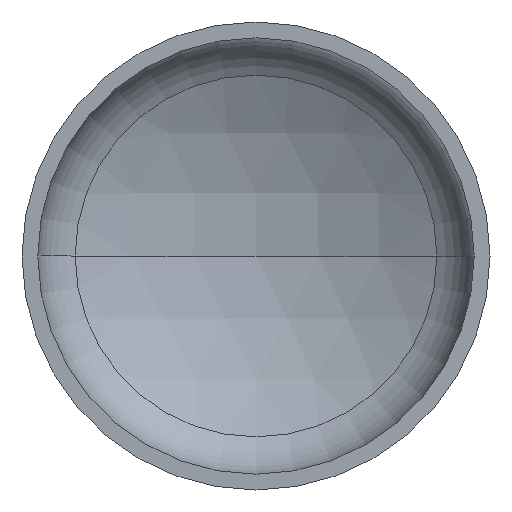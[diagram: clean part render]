
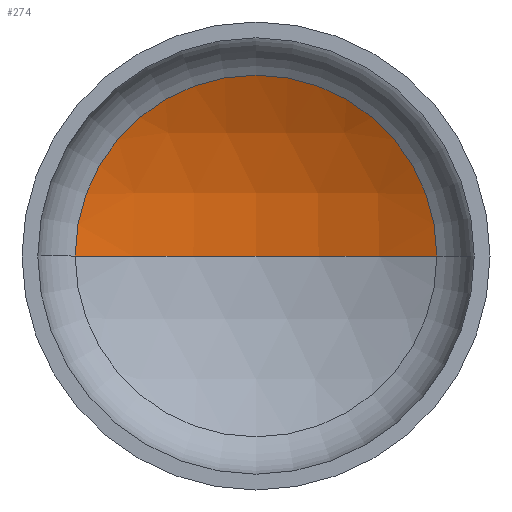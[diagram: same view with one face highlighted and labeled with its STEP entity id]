
A CAD part, front view. The second image highlights one B-rep face of the part: STEP entity #274.
In plain terms, the highlighted spherical face has radius 284 mm.
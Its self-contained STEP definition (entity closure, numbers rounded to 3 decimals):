
#26 = VERTEX_POINT ( 'NONE', #328 ) ;
#41 = AXIS2_PLACEMENT_3D ( 'NONE', #225, #255, #244 ) ;
#45 = ORIENTED_EDGE ( 'NONE', *, *, #177, .F. ) ;
#79 = EDGE_LOOP ( 'NONE', ( #45, #299, #196 ) ) ;
#80 = AXIS2_PLACEMENT_3D ( 'NONE', #316, #184, #230 ) ;
#88 = AXIS2_PLACEMENT_3D ( 'NONE', #185, #335, #207 ) ;
#93 = AXIS2_PLACEMENT_3D ( 'NONE', #272, #405, #251 ) ;
#106 = VERTEX_POINT ( 'NONE', #294 ) ;
#126 = CIRCLE ( 'NONE', #93, 137.411 ) ;
#131 = VERTEX_POINT ( 'NONE', #160 ) ;
#160 = CARTESIAN_POINT ( 'NONE',  ( -137.411, 88.134, 0. ) ) ;
#170 = EDGE_CURVE ( 'NONE', #106, #131, #126, .T. ) ;
#175 = EDGE_CURVE ( 'NONE', #26, #106, #277, .T. ) ;
#177 = EDGE_CURVE ( 'NONE', #26, #131, #215, .T. ) ;
#184 = DIRECTION ( 'NONE',  ( 0., 0., 1. ) ) ;
#185 = CARTESIAN_POINT ( 'NONE',  ( 0., -160.41, 0. ) ) ;
#194 = FACE_OUTER_BOUND ( 'NONE', #79, .T. ) ;
#196 = ORIENTED_EDGE ( 'NONE', *, *, #170, .T. ) ;
#207 = DIRECTION ( 'NONE',  ( -1., 0., 0. ) ) ;
#215 = CIRCLE ( 'NONE', #80, 284. ) ;
#225 = CARTESIAN_POINT ( 'NONE',  ( 0., -160.41, 0. ) ) ;
#230 = DIRECTION ( 'NONE',  ( 1., 0., 0. ) ) ;
#244 = DIRECTION ( 'NONE',  ( -1., 0., 0. ) ) ;
#251 = DIRECTION ( 'NONE',  ( 1., 0., 0. ) ) ;
#255 = DIRECTION ( 'NONE',  ( 0., 0., -1. ) ) ;
#266 = SPHERICAL_SURFACE ( 'NONE', #41, 284. ) ;
#272 = CARTESIAN_POINT ( 'NONE',  ( 0., 88.134, 0. ) ) ;
#274 = ADVANCED_FACE ( 'NONE', ( #194 ), #266, .F. ) ;
#277 = CIRCLE ( 'NONE', #88, 284. ) ;
#294 = CARTESIAN_POINT ( 'NONE',  ( 137.411, 88.134, 0. ) ) ;
#299 = ORIENTED_EDGE ( 'NONE', *, *, #175, .T. ) ;
#316 = CARTESIAN_POINT ( 'NONE',  ( 0., -160.41, 0. ) ) ;
#328 = CARTESIAN_POINT ( 'NONE',  ( 0., 123.59, 0. ) ) ;
#335 = DIRECTION ( 'NONE',  ( 0., 0., -1. ) ) ;
#405 = DIRECTION ( 'NONE',  ( 0., -1., 0. ) ) ;
